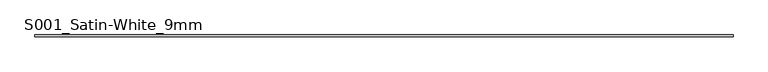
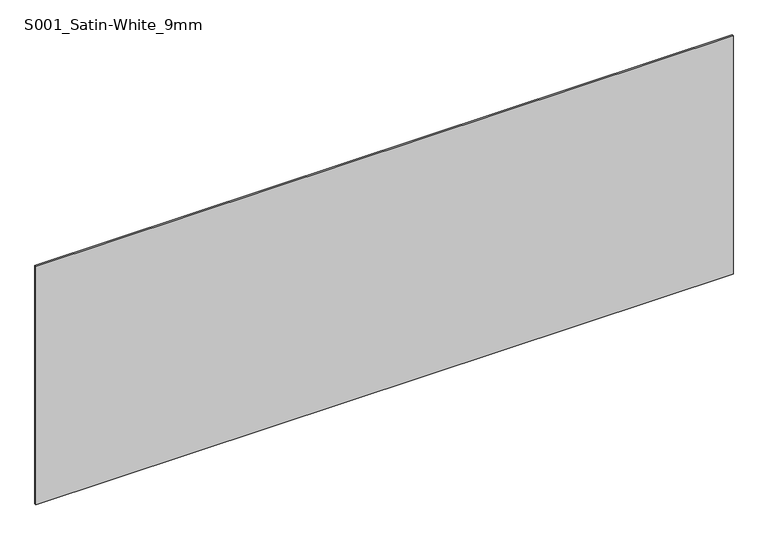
"""IFC4 building model written with IfcOpenShell, lengths in millimetres: plate geometry, Curtain-Panels_Outdoor-Material_HI-MACS_Solids : S001_Satin-White_9mm."""

from ifc_helpers import new_model, si_unit, origin, origin_with_axes, place, context, project, spatial, polyline, outline, extrude, source, transform, mapped, element, save


def s001_satin_white_9mm_3aacd5bc(model_context):
    return source(origin(), model_context, "Body", "SweptSolid", [
        extrude(outline(polyline([(1840.0, 4.5), (1840.0, -4.5), (-1840.0, -4.5), (-1840.0, 4.5), (1840.0, 4.5)])), origin_with_axes(), (0.0, 0.0, 1.0), 1330.2413287),
    ])


if __name__ == "__main__":
    model = new_model("IFC4")
    model_context = context("Model", 3, world=origin())
    ifc_project = project(units=[si_unit("LENGTHUNIT", "METRE", prefix="MILLI")], contexts=[model_context])
    site = spatial("IfcSite", under=ifc_project)
    building = spatial("IfcBuilding", under=site)
    placement = place(None, origin())
    s001_satin_white_9mm_shape = s001_satin_white_9mm_3aacd5bc(model_context)
    element("IfcPlate", 1, ObjectType="Curtain-Panels_Outdoor-Material_HI-MACS_Solids : S001_Satin-White_9mm", at=placement, inside=building, context=model_context, shape_type="MappedRepresentation", body=[
        mapped(s001_satin_white_9mm_shape, transform((0.0, 0.0, 0.0), x_axis=(1.0, 0.0, 0.0), y_axis=(0.0, 1.0, 0.0), z_axis=(0.0, 0.0, 1.0))),
    ])
    save(model, "model.ifc")
